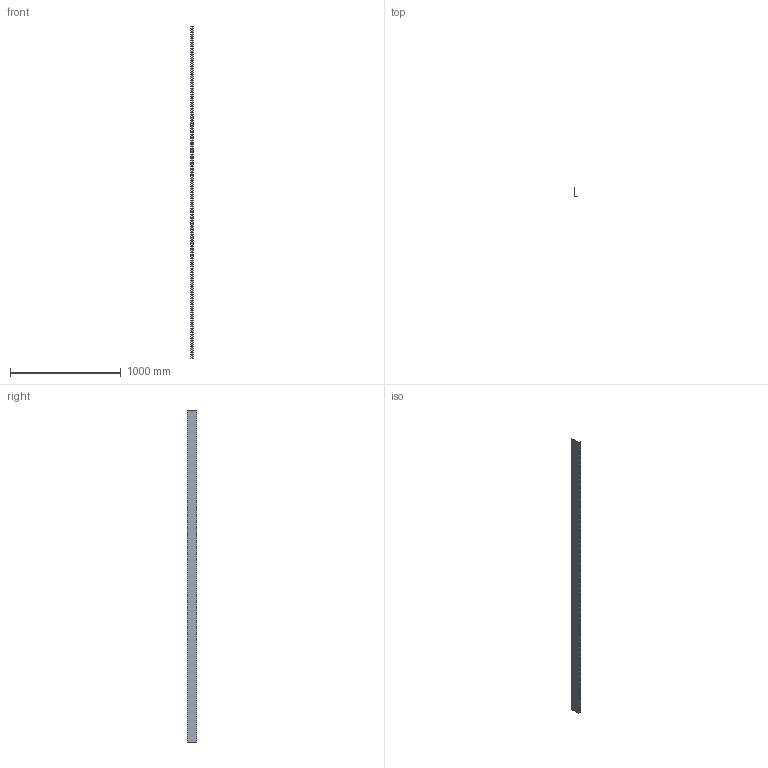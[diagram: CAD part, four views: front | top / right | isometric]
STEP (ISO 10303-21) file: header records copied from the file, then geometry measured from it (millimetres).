
FILE_DESCRIPTION (( 'STEP AP214' ), '1' );
FILE_NAME ('50B3I.step', '2025-02-21T10:28:00', ( '' ), ( '' ), 'SwSTEP 2.0', 'SolidWorks 2023', '' );
FILE_SCHEMA (( 'AUTOMOTIVE_DESIGN' ));
Length unit declared in the file: millimetre
Products named in the file (1): 50B3I
Bounding box: 22 x 83 x 3000 mm (x, y, z)
Volume: 240000 mm3; surface area: 608653.1 mm2
Topology: 1 solids, 1 shells, 296 faces, 882 edges, 588 vertices
Faces by surface type: plane 296
Entity records: 10037 total; most frequent: CARTESIAN_POINT 1767, ORIENTED_EDGE 1764, DIRECTION 1476, VECTOR 882, LINE 882, EDGE_CURVE 882, VERTEX_POINT 588, EDGE_LOOP 440
